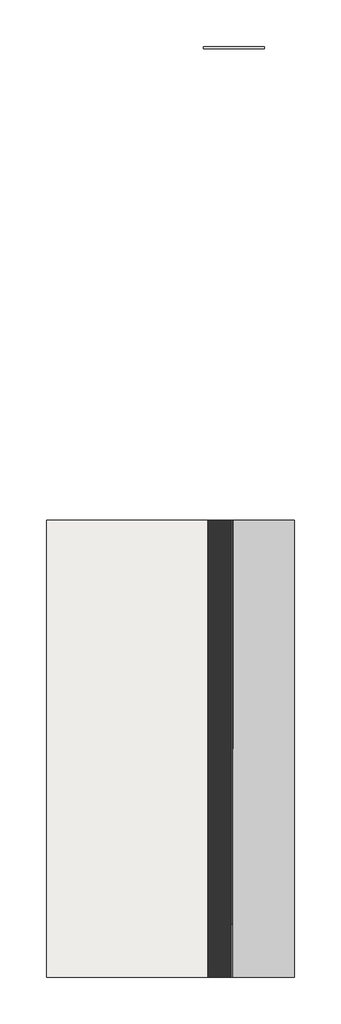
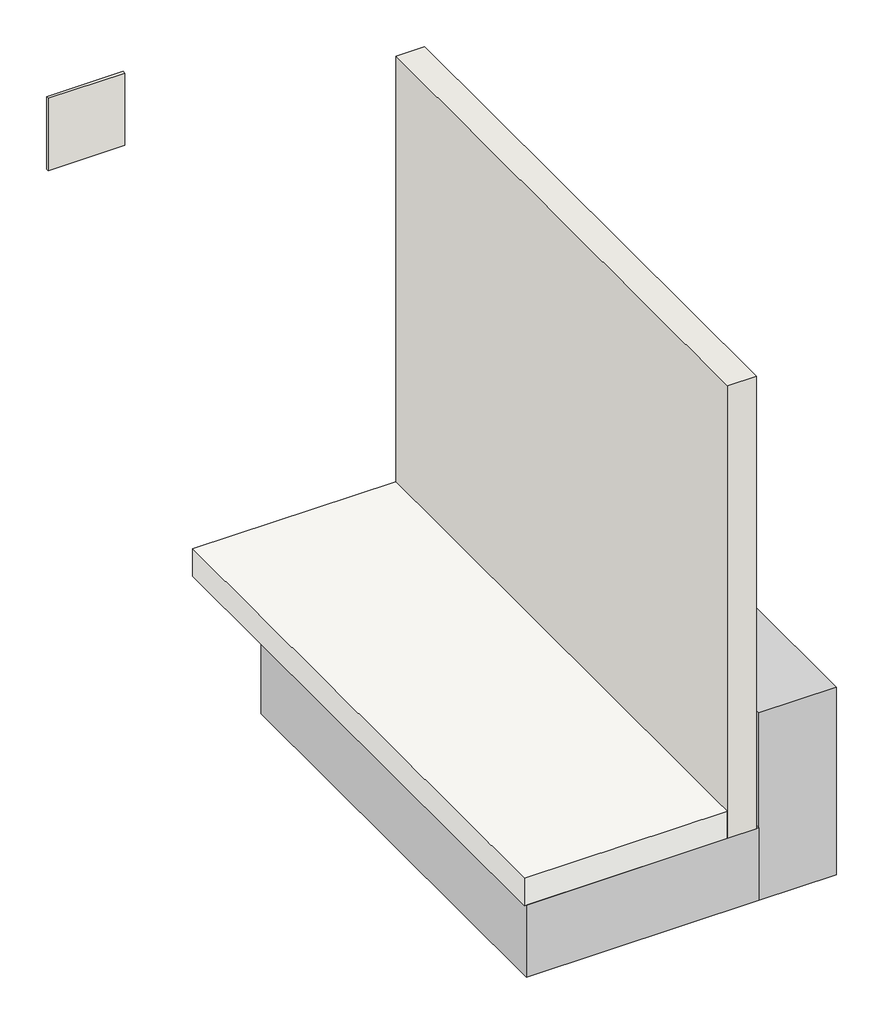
# One storey: 2 walls, 1 proxy, 1 slab.
"""IFC4 building model written with IfcOpenShell, lengths in millimetres."""

import ifcopenshell
import ifcopenshell.guid

model = None  # the IFC model being written
_history = None  # IfcOwnerHistory: only IFC2X3 demands one
_inside = {}  # id of a spatial element -> (the spatial element, [elements in it])
_under = {}  # id of a project, library or spatial element -> (it, [spatial elements below it])
_declared = {}  # id of a project -> (the project, [libraries it declares])
_typed = {}  # id of a type object -> (the type object, [elements of that type])
_made_of = {}  # id of a material, layer set ... -> (it, [elements and type objects made of it])


def new_model(schema):
    """Start an empty IFC model of exactly this schema.

    Asked for "IFC4X3", IfcOpenShell would pick the latest addendum, in which some entities
    have other attributes; the version numbers below select the first issue.
    IFC2X3 requires an IfcOwnerHistory on every rooted entity: one is made here for all.
    """
    global model, _history
    if schema == "IFC4X3":
        model = ifcopenshell.file(schema_version=(4, 3, 0, 0))
    else:
        model = ifcopenshell.file(schema=schema)
    _inside.clear()
    _under.clear()
    _declared.clear()
    _typed.clear()
    _made_of.clear()
    _history = None
    if model.schema == "IFC2X3":
        org = make("IfcOrganization", Name="unknown")
        user = make(
            "IfcPersonAndOrganization",
            ThePerson=make("IfcPerson", FamilyName="unknown"),
            TheOrganization=org,
        )
        app = make(
            "IfcApplication",
            ApplicationDeveloper=org,
            Version="unknown",
            ApplicationFullName="unknown",
            ApplicationIdentifier="unknown",
        )
        _history = make(
            "IfcOwnerHistory",
            OwningUser=user,
            OwningApplication=app,
            ChangeAction="ADDED",
            CreationDate=0,
        )
    return model


def make(cls, **values):
    """One entity of the class cls with the attributes given. An attribute that is None is left unset."""
    return model.create_entity(
        cls, **{name: value for name, value in values.items() if value is not None}
    )


def rooted(cls, **values):
    """An entity with a GlobalId (a new one), such as an element, a storey or a relation."""
    return make(cls, GlobalId=ifcopenshell.guid.new(), OwnerHistory=_history, **values)


def si_unit(unit_type, name, prefix=None):
    """IfcSIUnit, for example si_unit("LENGTHUNIT", "METRE", prefix="MILLI")."""
    return make("IfcSIUnit", UnitType=unit_type, Prefix=prefix, Name=name)


def assignment(units):
    """IfcUnitAssignment: the units of a project."""
    return None if units is None else make("IfcUnitAssignment", Units=units)


def point(xyz):
    """IfcCartesianPoint."""
    return None if xyz is None else make("IfcCartesianPoint", Coordinates=xyz)


def direction(xyz):
    """IfcDirection."""
    return None if xyz is None else make("IfcDirection", DirectionRatios=xyz)


def frame(location, z_axis=None, x_axis=None):
    """IfcAxis2Placement3D, a coordinate frame: its origin and axes. An axis left out is left unset."""
    return make(
        "IfcAxis2Placement3D",
        Location=point(location),
        Axis=direction(z_axis),
        RefDirection=direction(x_axis),
    )


def frame_2d(location, x_axis=None):
    """IfcAxis2Placement2D, a coordinate frame in the plane: its origin and x axis."""
    return make(
        "IfcAxis2Placement2D", Location=point(location), RefDirection=direction(x_axis)
    )


def origin():
    """The frame at (0, 0, 0) with its axes left unset."""
    return frame((0.0, 0.0, 0.0))


def place(relative_to, where):
    """IfcLocalPlacement: puts the frame where relative to a parent placement (None: the world)."""
    return make(
        "IfcLocalPlacement", PlacementRelTo=relative_to, RelativePlacement=where
    )


def context(
    kind, dimensions, precision=None, world=None, true_north=None, identifier=None
):
    """IfcGeometricRepresentationContext, for example the 3D "Model" context."""
    return make(
        "IfcGeometricRepresentationContext",
        ContextIdentifier=identifier,
        ContextType=kind,
        CoordinateSpaceDimension=dimensions,
        Precision=precision,
        WorldCoordinateSystem=world,
        TrueNorth=true_north,
    )


def project(units=None, contexts=None):
    """IfcProject with its units and contexts."""
    return rooted(
        "IfcProject",
        Name="project",
        RepresentationContexts=contexts,
        UnitsInContext=assignment(units),
    )


def spatial(cls, under=None, at=None, **own):
    """A site, building, storey or space (cls), placed at a placement, below another one or the project."""
    s = rooted(cls, ObjectPlacement=at, **own)
    if under is not None:
        _under.setdefault(under.id(), (under, []))[1].append(s)
    return s


def polyline(points):
    """IfcPolyline through the points."""
    return make("IfcPolyline", Points=[point(p) for p in points])


def circle_curve(where, radius):
    """IfcCircle in the frame where."""
    return make("IfcCircle", Position=where, Radius=radius)


def trimmed(basis, trim1, trim2, sense, master):
    """IfcTrimmedCurve: the piece of a basis curve between two trims."""
    return make(
        "IfcTrimmedCurve",
        BasisCurve=basis,
        Trim1=trim1,
        Trim2=trim2,
        SenseAgreement=sense,
        MasterRepresentation=master,
    )


def segment(curve, same_sense, transition):
    """IfcCompositeCurveSegment."""
    return make(
        "IfcCompositeCurveSegment",
        Transition=transition,
        SameSense=same_sense,
        ParentCurve=curve,
    )


def composite_curve(segments, self_intersect=None):
    """IfcCompositeCurve: segments joined end to end."""
    return make("IfcCompositeCurve", Segments=segments, SelfIntersect=self_intersect)


def outline(outer, holes=None, kind="AREA"):
    """IfcArbitraryClosedProfileDef: a profile drawn as a closed curve; with holes, ...WithVoids."""
    if holes is None:
        return make("IfcArbitraryClosedProfileDef", ProfileType=kind, OuterCurve=outer)
    return make(
        "IfcArbitraryProfileDefWithVoids",
        ProfileType=kind,
        OuterCurve=outer,
        InnerCurves=holes,
    )


def extrude(swept, where, along, depth):
    """IfcExtrudedAreaSolid: the profile swept, set in the frame where, extruded along a direction by depth."""
    return make(
        "IfcExtrudedAreaSolid",
        SweptArea=swept,
        Position=where,
        ExtrudedDirection=direction(along),
        Depth=depth,
    )


def shape(context_of_items, identifier, shape_type, items):
    """IfcShapeRepresentation: the items that make up one representation, for example the "Body"."""
    return make(
        "IfcShapeRepresentation",
        ContextOfItems=context_of_items,
        RepresentationIdentifier=identifier,
        RepresentationType=shape_type,
        Items=items,
    )


def source(mapping_origin, context_of_items, identifier, shape_type, items):
    """IfcRepresentationMap: a shape defined once, which mapped items show again and again."""
    return make(
        "IfcRepresentationMap",
        MappingOrigin=mapping_origin,
        MappedRepresentation=shape(context_of_items, identifier, shape_type, items),
    )


def transform(
    local_origin,
    x_axis=None,
    y_axis=None,
    z_axis=None,
    scale=None,
    scale2=None,
    scale3=None,
    uniform=True,
):
    """IfcCartesianTransformationOperator3D, or its non-uniform kind. x_axis, y_axis, z_axis: its Axis1, 2, 3."""
    if uniform:
        return make(
            "IfcCartesianTransformationOperator3D",
            Axis1=direction(x_axis),
            Axis2=direction(y_axis),
            LocalOrigin=point(local_origin),
            Scale=scale,
            Axis3=direction(z_axis),
        )
    return make(
        "IfcCartesianTransformationOperator3DnonUniform",
        Axis1=direction(x_axis),
        Axis2=direction(y_axis),
        LocalOrigin=point(local_origin),
        Scale=scale,
        Axis3=direction(z_axis),
        Scale2=scale2,
        Scale3=scale3,
    )


def mapped(mapping_source, mapping_target):
    """IfcMappedItem: shows the shape of a source again, moved by a transform."""
    return make(
        "IfcMappedItem", MappingSource=mapping_source, MappingTarget=mapping_target
    )


def made_of(thing, what):
    """Note that an element or type object is made of a material, layer set ...; save() writes the relation."""
    if what is not None:
        _made_of.setdefault(what.id(), (what, []))[1].append(thing)
    return thing


def element(
    cls,
    number,
    at=None,
    inside=None,
    cuts=None,
    type_object=None,
    material=None,
    context=None,
    identifier="Body",
    shape_type=None,
    held_by="IfcProductDefinitionShape",
    body=None,
    shapes=None,
    **own,
):
    """One element of the class cls, such as IfcWall. Its Tag is "e" and its number.

    at: its placement. inside: the storey or other place that contains it. cuts: it is an
    opening in that element (IfcRelVoidsElement). A single representation is given by context,
    identifier, shape_type and body (its items); several are given by shapes. held_by: the class
    of the entity that holds the representations. save() writes the other relations.
    """
    e = rooted(cls, Tag="e%d" % number, ObjectPlacement=at, **own)
    if body is not None:
        shapes = [shape(context, identifier, shape_type, body)]
    if shapes is not None:
        e.Representation = make(held_by, Representations=shapes)
    if inside is not None:
        _inside.setdefault(inside.id(), (inside, []))[1].append(e)
    if cuts is not None:
        rooted(
            "IfcRelVoidsElement", RelatingBuildingElement=cuts, RelatedOpeningElement=e
        )
    if type_object is not None:
        _typed.setdefault(type_object.id(), (type_object, []))[1].append(e)
    return made_of(e, material)


def aggregate(whole, parts):
    """IfcRelAggregates: a whole, such as a stair, and the parts it consists of."""
    return rooted("IfcRelAggregates", RelatingObject=whole, RelatedObjects=parts)


def save(model, path):
    """Write the relations noted so far, then the file.

    IfcRelAggregates (storeys below a building ...), IfcRelContainedInSpatialStructure (elements
    in a storey), IfcRelDefinesByType, IfcRelAssociatesMaterial and IfcRelDeclares: one each for
    every whole, place, type object, material and project.
    """
    for whole, parts in _under.values():
        aggregate(whole, parts)
    for where, things in _inside.values():
        rooted(
            "IfcRelContainedInSpatialStructure",
            RelatedElements=things,
            RelatingStructure=where,
        )
    for kind, things in _typed.values():
        rooted("IfcRelDefinesByType", RelatedObjects=things, RelatingType=kind)
    for what, things in _made_of.values():
        rooted("IfcRelAssociatesMaterial", RelatedObjects=things, RelatingMaterial=what)
    for by, libraries in _declared.values():
        rooted("IfcRelDeclares", RelatingContext=by, RelatedDefinitions=libraries)
    model.write(path)


def generic_models_70e7240a(model_context):
    return source(origin(), model_context, "Body", "SweptSolid", [
        extrude(outline(polyline([(-351.9704105, 145.8700195), (-341.9979716, 145.8700195), (-341.9979716, -2505.9740371), (-351.9704105, -2505.9740371), (-351.9704105, 145.8700195)])), frame((0.0, 0.0, -2.523798), z_axis=(0.0, 0.0, 1.0), x_axis=(1.0, 0.0, 0.0)), (0.0, 0.0, 1.0), 2142.8222866),
        extrude(outline(polyline([(-336.9315394, -2854.1299805), (-1552.7804486, -2854.1299805), (-1552.7804486, -454.1299805), (-336.9315394, -454.1299805), (-336.9315394, -2854.1299805)])), frame((0.0, 0.0, -402.523798), z_axis=(0.0, 0.0, 1.0), x_axis=(1.0, 0.0, 0.0)), (0.0, 0.0, 1.0), 400.0),
        extrude(outline(polyline([(67.0408996, -2854.1299805), (-336.9315394, -2854.1299805), (-336.9315394, 145.8700195), (67.0408996, 145.8700195), (67.0408996, -2854.1299805)])), frame((0.0, 0.0, -402.523798), z_axis=(0.0, 0.0, 1.0), x_axis=(1.0, 0.0, 0.0)), (0.0, 0.0, 1.0), 1034.8744031),
        extrude(outline(composite_curve([segment(polyline([(1063.6239853, -340.0255326), (-2.523798, -340.0255326)]), True, "CONTINUOUS"), segment(trimmed(circle_curve(frame_2d((-2.523798, -330.0255326)), 10.0), [point((-2.523798, -340.0255326))], [point((-2.523798, -320.0255326))], False, "CARTESIAN"), True, "CONTINUOUS"), segment(trimmed(circle_curve(frame_2d((-2.523798, -326.5465084)), 6.5209758), [point((-2.523798, -320.0255326))], [point((-2.523798, -333.0674842))], False, "CARTESIAN"), True, "CONTINUOUS"), segment(trimmed(circle_curve(frame_2d((-2.523798, -329.8069963)), 3.2604879), [point((-2.523798, -333.0674842))], [point((-2.523798, -326.5465084))], False, "CARTESIAN"), True, "CONTINUOUS"), segment(polyline([(-2.523798, -326.5465084), (-2.523798, -329.5465084)]), True, "CONTINUOUS"), segment(trimmed(circle_curve(frame_2d((-2.523798, -329.8069963)), 0.2604879), [point((-2.523798, -329.5465084))], [point((-2.523798, -330.0674842))], True, "CARTESIAN"), True, "CONTINUOUS"), segment(trimmed(circle_curve(frame_2d((-2.523798, -326.5465084)), 3.5209758), [point((-2.523798, -330.0674842))], [point((-2.523798, -323.0255326))], True, "CARTESIAN"), True, "CONTINUOUS"), segment(trimmed(circle_curve(frame_2d((-2.523798, -330.0255326)), 7.0), [point((-2.523798, -323.0255326))], [point((-2.523798, -337.0255326))], True, "CARTESIAN"), True, "CONTINUOUS"), segment(polyline([(-2.523798, -337.0255326), (1063.6239853, -337.0255326), (1063.6239853, -340.0255326)]), True, "CONTINUOUS")], self_intersect=False)), frame((0.0, -1354.1299805, 0.0), z_axis=(0.0, 1.0, 0.0), x_axis=(0.0, 0.0, 1.0)), (0.0, 0.0, 1.0), 1500.0),
        extrude(outline(polyline([(-340.9979716, 145.8700195), (-340.9979716, -2254.1299805), (-341.9979716, -2254.1299805), (-341.9979716, 145.8700195), (-340.9979716, 145.8700195)])), frame((0.0, 0.0, -2.523798), z_axis=(0.0, 0.0, 1.0), x_axis=(1.0, 0.0, 0.0)), (0.0, 0.0, 1.0), 1965.7083629),
        extrude(outline(polyline([(-340.0255326, 145.8700195), (-340.0255326, -1754.1299805), (-340.9979716, -1754.1299805), (-340.9979716, 145.8700195), (-340.0255326, 145.8700195)])), frame((0.0, 0.0, -2.523798), z_axis=(0.0, 0.0, 1.0), x_axis=(1.0, 0.0, 0.0)), (0.0, 0.0, 1.0), 1548.1528029),
    ])


model = new_model("IFC4")

# Units and contexts
model_context = context("Model", 3, world=origin())
ifc_project = project(units=[si_unit("LENGTHUNIT", "METRE", prefix="MILLI")], contexts=[model_context])

# Site, building, storey
site = spatial("IfcSite", under=ifc_project)
building = spatial("IfcBuilding", under=site)
storey = spatial("IfcBuildingStorey", under=building, Name="ARQ Térreo", Elevation=-2.523798)

# Proxy
placement = place(None, origin())
generic_models_shape = generic_models_70e7240a(model_context)
element("IfcBuildingElementProxy", 1, Name="IMPER:IMPER:433934 : IMPER:IMPER:433934", ObjectType="IMPER:IMPER:433934 : IMPER:IMPER:433934", at=placement, inside=storey, context=model_context, shape_type="MappedRepresentation", body=[
    mapped(generic_models_shape, transform((0.0, 0.0, 0.0), x_axis=(1.0, 0.0, 0.0), y_axis=(0.0, 1.0, 0.0), z_axis=(0.0, 0.0, 1.0))),
])

# Slab
element("IfcSlab", 2, ObjectType="Genérico 150 mm", at=placement, inside=storey, context=model_context, shape_type="SweptSolid", body=[
    extrude(outline(polyline([(-1562.7804486, 145.8700195), (-501.9704105, 145.8700195), (-501.9704105, -2854.1299805), (-1562.7804486, -2854.1299805), (-1562.7804486, 145.8700195)])), frame((0.0, 0.0, -2.523798), z_axis=(0.0, 0.0, 1.0), x_axis=(1.0, 0.0, 0.0)), (0.0, 0.0, 1.0), 150.0),
])

# Walls
element("IfcWall", 3, ObjectType="Parede básica:Parede Concreto", at=placement, inside=storey, context=model_context, shape_type="SweptSolid", body=[
    extrude(outline(polyline([(-501.9704105, -2854.1299805), (-501.9704105, 145.8700195), (-351.9704105, 145.8700195), (-351.9704105, -2854.1299805), (-501.9704105, -2854.1299805)])), frame((0.0, 0.0, -2.523798), z_axis=(0.0, 0.0, 1.0), x_axis=(1.0, 0.0, 0.0)), (0.0, 0.0, 1.0), 2500.0),
])
element("IfcWall", 4, ObjectType="IMPV_VP1000", at=placement, inside=storey, context=model_context, shape_type="SweptSolid", body=[
    extrude(outline(polyline([(-531.9704105, 3255.8700195), (-131.9704105, 3255.8700195), (-131.9704105, 3240.8700195), (-531.9704105, 3240.8700195), (-531.9704105, 3255.8700195)])), frame((0.0, 0.0, -2.523798), z_axis=(0.0, 0.0, 1.0), x_axis=(1.0, 0.0, 0.0)), (0.0, 0.0, 1.0), 400.0),
])

save(model, "model.ifc")
